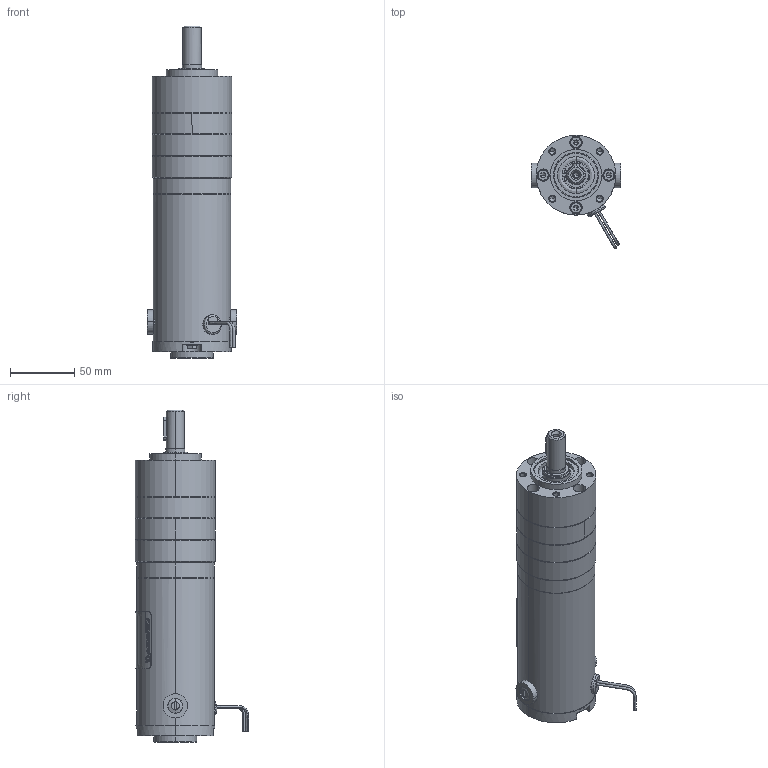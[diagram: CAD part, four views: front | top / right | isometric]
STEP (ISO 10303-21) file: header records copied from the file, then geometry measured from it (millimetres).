
FILE_DESCRIPTION (( 'STEP AP214' ), '1' );
FILE_NAME ('PM6015-PL6200i_3S.STEP', '2013-05-01T16:55:41', ( '' ), ( '' ), 'SwSTEP 2.0', 'SolidWorks 2013', '' );
FILE_SCHEMA (( 'AUTOMOTIVE_DESIGN' ));
Length unit declared in the file: inch
Products named in the file (1): PM6015-PL6200i_3S
Bounding box: 69.81 x 87.94 x 258.16 mm (x, y, z)
Surface area: 167524.9 mm2 (no closed solid volume)
Topology: 0 solids, 36 shells, 2079 faces, 5519 edges, 3559 vertices
Faces by surface type: plane 725, cylinder 691, bspline 391, cone 195, torus 63, sphere 14
Entity records: 115829 total; most frequent: CARTESIAN_POINT 38841, ORIENTED_EDGE 10902, DIRECTION 9472, EDGE_CURVE 5453, VERTEX_POINT 3545, AXIS2_PLACEMENT_3D 3483, VECTOR 2506, LINE 2506
